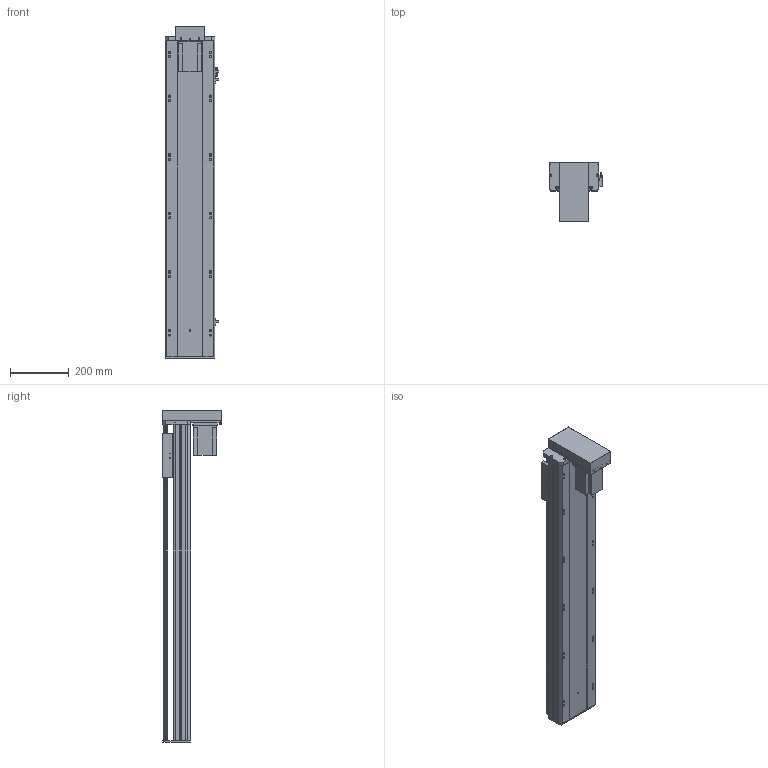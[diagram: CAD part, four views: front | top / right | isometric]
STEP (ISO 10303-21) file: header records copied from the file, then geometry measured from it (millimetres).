
FILE_DESCRIPTION (( 'STEP AP203' ), '1' );
FILE_NAME ('Y170-D10-S850-BM-P750W.STEP', '2020-01-22T03:09:17', ( '微软用户' ), ( '微软中国' ), 'SwSTEP 2.0', 'SolidWorks 2017', '' );
FILE_SCHEMA (( 'CONFIG_CONTROL_DESIGN' ));
Length unit declared in the file: millimetre
Products named in the file (12): Y170-BM--P750W楊擘啣; -BM俋袗; Y170耜裔--準---; YD-Y100-135-新外置传感挡片(通用）; 170--掛极-BR; Y100-135俋离換覜ん; 侂狟750W; Y170-D10-S850-BM-P750W; EGH20賑輸_蕼偞; Y雄赽釱-耜蚾; Y170-陔遴奻裔-BR; 170-BM耜蚾蟀諉啣
Assembly tree (14 placements, depth 2):
  Y170-D10-S850-BM-P750W
    Y170耜裔--準---
    170--掛极-BR
    侂狟750W
    EGH20賑輸_蕼偞  x2
    Y雄赽釱-耜蚾
    Y170-陔遴奻裔-BR
    170-BM耜蚾蟀諉啣
    Y170-BM--P750W楊擘啣
    -BM俋袗
    YD-Y100-135-新外置传感挡片(通用）
    Y100-135俋离換覜ん  x3
Bounding box: 183.5 x 203.5 x 1133.5 mm (x, y, z)
Volume: 5500239.9 mm3; surface area: 1877151.6 mm2
Topology: 14 solids, 14 shells, 906 faces, 2556 edges, 1686 vertices
Faces by surface type: cylinder 454, plane 436, cone 16
Entity records: 28666 total; most frequent: CARTESIAN_POINT 5071, DIRECTION 4744, ORIENTED_EDGE 4608, EDGE_CURVE 2304, AXIS2_PLACEMENT_3D 1683, VERTEX_POINT 1530, LINE 1378, VECTOR 1378
